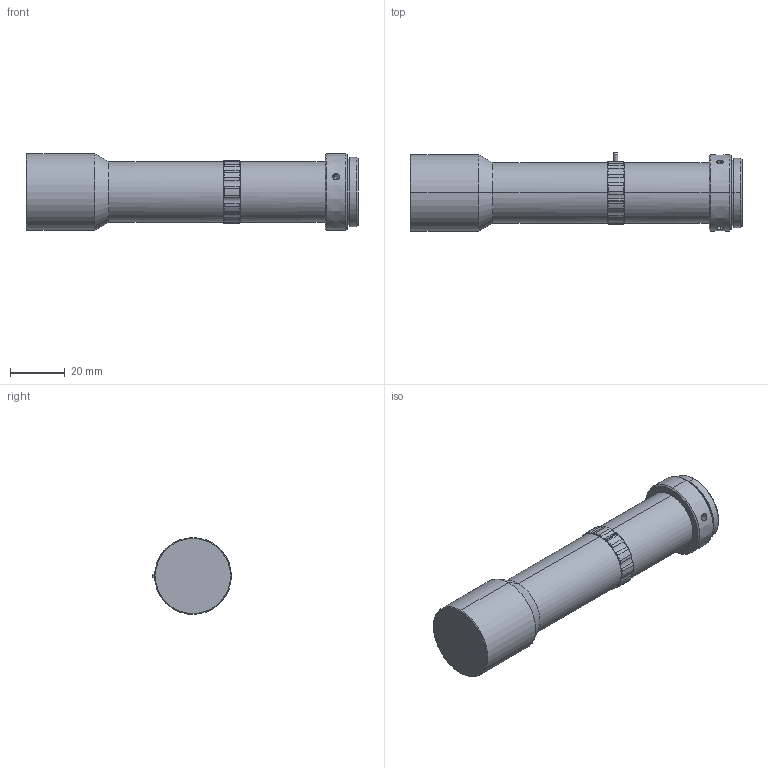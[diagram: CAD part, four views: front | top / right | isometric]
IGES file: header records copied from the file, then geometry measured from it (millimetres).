
Start section: SolidWorks IGES file using analytic representation for surfaces
Global section: file name: D:\撮扲窒\3D俋倛芞\3D   igs\WWH\WWH08-130AT-G.IGS; native system: SolidWorks 2012; preprocessor: SolidWorks 2012; author: ZXC; date: 171213.170753; units: millimetre
Bounding box: 121.1 x 28.69 x 28 mm (x, y, z)
Surface area: 10779.9 mm2 (no closed solid volume)
Topology: 0 solids, 0 shells, 142 faces, 1292 edges, 1286 vertices
Faces by surface type: revolution 107, bspline 35
